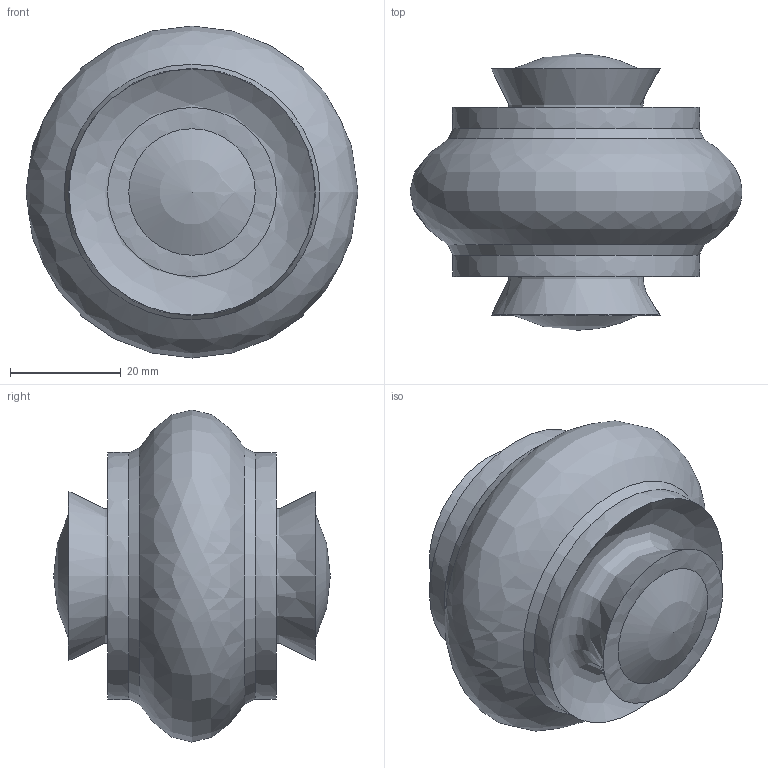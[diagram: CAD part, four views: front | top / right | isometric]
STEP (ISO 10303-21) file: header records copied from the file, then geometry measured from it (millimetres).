
FILE_DESCRIPTION(('HOOPS Exchange Step'),'2;1');
FILE_NAME('/private/var/mobile/Containers/Data/Application/6A221F3C-4013-4CF2-BF10-266E8049BE3B/tmp/export/temp_export.step','2019-09-11T18:31:47+03:00',('mobile'),('Shapr3D Limited'),'HOOPS Exchange 2018.1','Shapr3D','Authorized');
FILE_SCHEMA( ('AP203_CONFIGURATION_CONTROLLED_3D_DESIGN_OF_MECHANICAL_PARTS_AND_ASSEMBLIES_MIM_LF') );
Length unit declared in the file: millimetre
Products named in the file (1):  01
Bounding box: 60 x 50 x 60 mm (x, y, z)
Volume: 69086.5 mm3; surface area: 11426.6 mm2
Topology: 1 solids, 1 shells, 11 faces, 33 edges, 22 vertices
Faces by surface type: bspline 7, sphere 4
Entity records: 566 total; most frequent: CARTESIAN_POINT 275, ORIENTED_EDGE 62, DIRECTION 58, EDGE_CURVE 31, AXIS2_PLACEMENT_3D 29, CIRCLE 24, VERTEX_POINT 22, EDGE_LOOP 11
